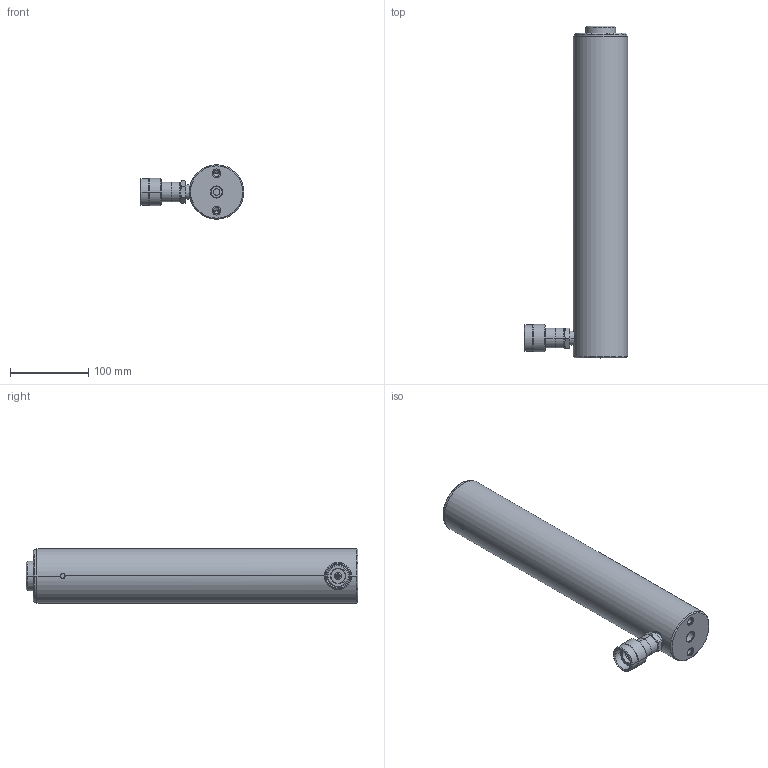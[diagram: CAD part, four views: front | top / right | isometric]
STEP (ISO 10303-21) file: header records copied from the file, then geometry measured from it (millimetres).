
FILE_DESCRIPTION((''),'2;1');
FILE_NAME('RC-1512_SW','2021-03-05T10:21:01',('mike.ward'),(''),'CREO PARAMETRIC BY PTC INC, 2018400','CREO PARAMETRIC BY PTC INC, 2018400','');
FILE_SCHEMA(('CONFIG_CONTROL_DESIGN'));
Length unit declared in the file: inch
Products named in the file (1): RC-1512_SW
Bounding box: 132.54 x 423.85 x 69.7 mm (x, y, z)
Volume: 1232741.7 mm3; surface area: 261767.8 mm2
Topology: 3 solids, 5 shells, 405 faces, 945 edges, 573 vertices
Faces by surface type: cylinder 140, cone 109, plane 76, torus 68, bspline 12
Entity records: 16646 total; most frequent: CARTESIAN_POINT 7348, DIRECTION 2033, ORIENTED_EDGE 1878, EDGE_CURVE 939, AXIS2_PLACEMENT_3D 883, VERTEX_POINT 573, CIRCLE 490, EDGE_LOOP 460
